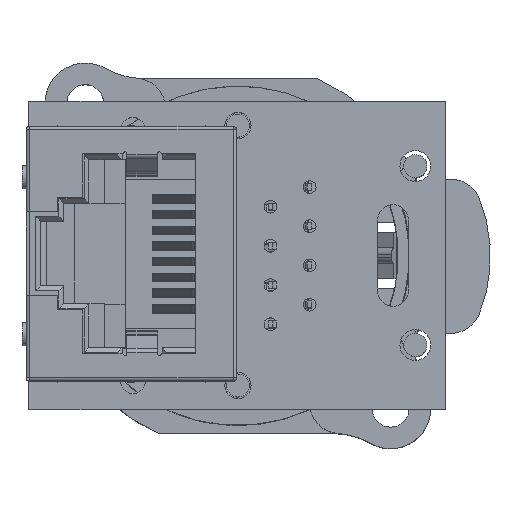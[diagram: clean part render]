
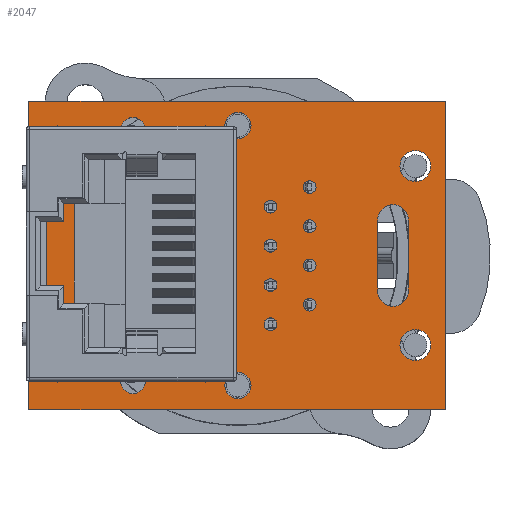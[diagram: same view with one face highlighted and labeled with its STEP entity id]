
A CAD part, top view. The second image highlights one B-rep face of the part: STEP entity #2047.
In plain terms, the highlighted planar face has unit normal (0, 0, 1).
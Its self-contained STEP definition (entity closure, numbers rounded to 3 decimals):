
#1015=FACE_BOUND('',#7059,.T.);
#1016=FACE_BOUND('',#7060,.T.);
#1017=FACE_BOUND('',#7061,.T.);
#1018=FACE_BOUND('',#7062,.T.);
#1019=FACE_BOUND('',#7063,.T.);
#1020=FACE_BOUND('',#7064,.T.);
#1021=FACE_BOUND('',#7065,.T.);
#1022=FACE_BOUND('',#7066,.T.);
#1023=FACE_BOUND('',#7067,.T.);
#1024=FACE_BOUND('',#7068,.T.);
#1025=FACE_BOUND('',#7069,.T.);
#1026=FACE_BOUND('',#7070,.T.);
#1027=FACE_BOUND('',#7071,.T.);
#1028=FACE_BOUND('',#7072,.T.);
#1029=FACE_BOUND('',#7073,.T.);
#1030=FACE_BOUND('',#7074,.T.);
#1202=CIRCLE('',#36660,0.415);
#1203=CIRCLE('',#36661,0.415);
#1204=CIRCLE('',#36662,0.415);
#1205=CIRCLE('',#36663,0.415);
#1206=CIRCLE('',#36664,0.415);
#1207=CIRCLE('',#36665,0.415);
#1208=CIRCLE('',#36666,0.415);
#1209=CIRCLE('',#36667,0.415);
#1210=CIRCLE('',#36668,0.8);
#1211=CIRCLE('',#36669,0.8);
#1212=CIRCLE('',#36670,0.85);
#1213=CIRCLE('',#36671,0.85);
#1214=CIRCLE('',#36672,1.);
#1215=CIRCLE('',#36673,1.);
#1216=CIRCLE('',#36674,1.);
#1217=CIRCLE('',#36675,1.);
#2047=ADVANCED_FACE('',(#1015,#1016,#1017,#1018,#1019,#1020,#1021,#1022,
#1023,#1024,#1025,#1026,#1027,#1028,#1029,#1030),#3898,.T.);
#3898=PLANE('',#36676);
#7059=EDGE_LOOP('',(#9048));
#7060=EDGE_LOOP('',(#9049));
#7061=EDGE_LOOP('',(#9050));
#7062=EDGE_LOOP('',(#9051));
#7063=EDGE_LOOP('',(#9052));
#7064=EDGE_LOOP('',(#9053));
#7065=EDGE_LOOP('',(#9054));
#7066=EDGE_LOOP('',(#9055));
#7067=EDGE_LOOP('',(#9056));
#7068=EDGE_LOOP('',(#9057));
#7069=EDGE_LOOP('',(#9058));
#7070=EDGE_LOOP('',(#9059));
#7071=EDGE_LOOP('',(#9060));
#7072=EDGE_LOOP('',(#9061));
#7073=EDGE_LOOP('',(#9062,#9063,#9064,#9065));
#7074=EDGE_LOOP('',(#9066,#9067,#9068,#9069));
#9048=ORIENTED_EDGE('',*,*,#22994,.T.);
#9049=ORIENTED_EDGE('',*,*,#22995,.F.);
#9050=ORIENTED_EDGE('',*,*,#22996,.F.);
#9051=ORIENTED_EDGE('',*,*,#22997,.F.);
#9052=ORIENTED_EDGE('',*,*,#22998,.F.);
#9053=ORIENTED_EDGE('',*,*,#22999,.F.);
#9054=ORIENTED_EDGE('',*,*,#23000,.F.);
#9055=ORIENTED_EDGE('',*,*,#23001,.F.);
#9056=ORIENTED_EDGE('',*,*,#23002,.F.);
#9057=ORIENTED_EDGE('',*,*,#23003,.F.);
#9058=ORIENTED_EDGE('',*,*,#23004,.F.);
#9059=ORIENTED_EDGE('',*,*,#23005,.F.);
#9060=ORIENTED_EDGE('',*,*,#23006,.F.);
#9061=ORIENTED_EDGE('',*,*,#23007,.F.);
#9062=ORIENTED_EDGE('',*,*,#23008,.F.);
#9063=ORIENTED_EDGE('',*,*,#23009,.F.);
#9064=ORIENTED_EDGE('',*,*,#23010,.F.);
#9065=ORIENTED_EDGE('',*,*,#23011,.F.);
#9066=ORIENTED_EDGE('',*,*,#22984,.T.);
#9067=ORIENTED_EDGE('',*,*,#22988,.T.);
#9068=ORIENTED_EDGE('',*,*,#22991,.T.);
#9069=ORIENTED_EDGE('',*,*,#22993,.T.);
#19532=VERTEX_POINT('',#48873);
#19533=VERTEX_POINT('',#48875);
#19535=VERTEX_POINT('',#48881);
#19537=VERTEX_POINT('',#48887);
#19538=VERTEX_POINT('',#48894);
#19539=VERTEX_POINT('',#48896);
#19540=VERTEX_POINT('',#48898);
#19541=VERTEX_POINT('',#48900);
#19542=VERTEX_POINT('',#48902);
#19543=VERTEX_POINT('',#48904);
#19544=VERTEX_POINT('',#48906);
#19545=VERTEX_POINT('',#48908);
#19546=VERTEX_POINT('',#48910);
#19547=VERTEX_POINT('',#48912);
#19548=VERTEX_POINT('',#48914);
#19549=VERTEX_POINT('',#48916);
#19550=VERTEX_POINT('',#48918);
#19551=VERTEX_POINT('',#48920);
#19552=VERTEX_POINT('',#48922);
#19553=VERTEX_POINT('',#48923);
#19554=VERTEX_POINT('',#48925);
#19555=VERTEX_POINT('',#48927);
#22984=EDGE_CURVE('',#19533,#19532,#28233,.T.);
#22988=EDGE_CURVE('',#19532,#19535,#28237,.T.);
#22991=EDGE_CURVE('',#19535,#19537,#28240,.T.);
#22993=EDGE_CURVE('',#19537,#19533,#28242,.T.);
#22994=EDGE_CURVE('',#19538,#19538,#1202,.T.);
#22995=EDGE_CURVE('',#19539,#19539,#1203,.T.);
#22996=EDGE_CURVE('',#19540,#19540,#1204,.T.);
#22997=EDGE_CURVE('',#19541,#19541,#1205,.T.);
#22998=EDGE_CURVE('',#19542,#19542,#1206,.T.);
#22999=EDGE_CURVE('',#19543,#19543,#1207,.T.);
#23000=EDGE_CURVE('',#19544,#19544,#1208,.T.);
#23001=EDGE_CURVE('',#19545,#19545,#1209,.T.);
#23002=EDGE_CURVE('',#19546,#19546,#1210,.T.);
#23003=EDGE_CURVE('',#19547,#19547,#1211,.T.);
#23004=EDGE_CURVE('',#19548,#19548,#1212,.T.);
#23005=EDGE_CURVE('',#19549,#19549,#1213,.T.);
#23006=EDGE_CURVE('',#19550,#19550,#1214,.T.);
#23007=EDGE_CURVE('',#19551,#19551,#1215,.T.);
#23008=EDGE_CURVE('',#19552,#19553,#28243,.T.);
#23009=EDGE_CURVE('',#19554,#19552,#1216,.T.);
#23010=EDGE_CURVE('',#19555,#19554,#28244,.T.);
#23011=EDGE_CURVE('',#19553,#19555,#1217,.T.);
#28233=LINE('',#48874,#32445);
#28237=LINE('',#48882,#32449);
#28240=LINE('',#48888,#32452);
#28242=LINE('',#48891,#32454);
#28243=LINE('',#48921,#32455);
#28244=LINE('',#48926,#32456);
#32445=VECTOR('',#39326,1.);
#32449=VECTOR('',#39332,1.);
#32452=VECTOR('',#39337,1.);
#32454=VECTOR('',#39341,1.);
#32455=VECTOR('',#39372,1.);
#32456=VECTOR('',#39375,1.);
#36660=AXIS2_PLACEMENT_3D('',#48893,#39344,#39345);
#36661=AXIS2_PLACEMENT_3D('',#48895,#39346,#39347);
#36662=AXIS2_PLACEMENT_3D('',#48897,#39348,#39349);
#36663=AXIS2_PLACEMENT_3D('',#48899,#39350,#39351);
#36664=AXIS2_PLACEMENT_3D('',#48901,#39352,#39353);
#36665=AXIS2_PLACEMENT_3D('',#48903,#39354,#39355);
#36666=AXIS2_PLACEMENT_3D('',#48905,#39356,#39357);
#36667=AXIS2_PLACEMENT_3D('',#48907,#39358,#39359);
#36668=AXIS2_PLACEMENT_3D('',#48909,#39360,#39361);
#36669=AXIS2_PLACEMENT_3D('',#48911,#39362,#39363);
#36670=AXIS2_PLACEMENT_3D('',#48913,#39364,#39365);
#36671=AXIS2_PLACEMENT_3D('',#48915,#39366,#39367);
#36672=AXIS2_PLACEMENT_3D('',#48917,#39368,#39369);
#36673=AXIS2_PLACEMENT_3D('',#48919,#39370,#39371);
#36674=AXIS2_PLACEMENT_3D('',#48924,#39373,#39374);
#36675=AXIS2_PLACEMENT_3D('',#48928,#39376,#39377);
#36676=AXIS2_PLACEMENT_3D('',#48929,#39378,#39379);
#39326=DIRECTION('',(0.,-1.,0.));
#39332=DIRECTION('',(1.,0.,0.));
#39337=DIRECTION('',(0.,1.,0.));
#39341=DIRECTION('',(-1.,0.,0.));
#39344=DIRECTION('',(0.,0.,-1.));
#39345=DIRECTION('',(0.,-1.,0.));
#39346=DIRECTION('',(0.,0.,1.));
#39347=DIRECTION('',(0.,-1.,0.));
#39348=DIRECTION('',(0.,0.,1.));
#39349=DIRECTION('',(0.,-1.,0.));
#39350=DIRECTION('',(0.,0.,1.));
#39351=DIRECTION('',(0.,-1.,0.));
#39352=DIRECTION('',(0.,0.,1.));
#39353=DIRECTION('',(0.,-1.,0.));
#39354=DIRECTION('',(0.,0.,1.));
#39355=DIRECTION('',(0.,-1.,0.));
#39356=DIRECTION('',(0.,0.,1.));
#39357=DIRECTION('',(0.,-1.,0.));
#39358=DIRECTION('',(0.,0.,1.));
#39359=DIRECTION('',(0.,-1.,0.));
#39360=DIRECTION('',(0.,0.,1.));
#39361=DIRECTION('',(0.,1.,0.));
#39362=DIRECTION('',(0.,0.,1.));
#39363=DIRECTION('',(0.,1.,0.));
#39364=DIRECTION('',(0.,0.,1.));
#39365=DIRECTION('',(0.,-1.,0.));
#39366=DIRECTION('',(0.,0.,1.));
#39367=DIRECTION('',(0.,-1.,0.));
#39368=DIRECTION('',(0.,0.,1.));
#39369=DIRECTION('',(0.,-1.,0.));
#39370=DIRECTION('',(0.,0.,1.));
#39371=DIRECTION('',(0.,-1.,0.));
#39372=DIRECTION('',(0.,-1.,0.));
#39373=DIRECTION('',(0.,0.,1.));
#39374=DIRECTION('',(0.,-1.,0.));
#39375=DIRECTION('',(0.,1.,0.));
#39376=DIRECTION('',(0.,0.,1.));
#39377=DIRECTION('',(0.,-1.,0.));
#39378=DIRECTION('',(0.,0.,1.));
#39379=DIRECTION('',(-1.,0.,0.));
#48873=CARTESIAN_POINT('',(-13.5,-10.,1.6));
#48874=CARTESIAN_POINT('',(-13.5,10.,1.6));
#48875=CARTESIAN_POINT('',(-13.5,10.,1.6));
#48881=CARTESIAN_POINT('',(13.5,-10.,1.6));
#48882=CARTESIAN_POINT('',(-13.5,-10.,1.6));
#48887=CARTESIAN_POINT('',(13.5,10.,1.6));
#48888=CARTESIAN_POINT('',(13.5,-10.,1.6));
#48891=CARTESIAN_POINT('',(13.5,10.,1.6));
#48893=CARTESIAN_POINT('',(4.7,4.44,1.6));
#48894=CARTESIAN_POINT('',(4.7,4.025,1.6));
#48895=CARTESIAN_POINT('',(4.7,1.9,1.6));
#48896=CARTESIAN_POINT('',(4.7,1.485,1.6));
#48897=CARTESIAN_POINT('',(4.7,-0.64,1.6));
#48898=CARTESIAN_POINT('',(4.7,-1.055,1.6));
#48899=CARTESIAN_POINT('',(4.7,-3.18,1.6));
#48900=CARTESIAN_POINT('',(4.7,-3.595,1.6));
#48901=CARTESIAN_POINT('',(2.16,3.17,1.6));
#48902=CARTESIAN_POINT('',(2.16,2.755,1.6));
#48903=CARTESIAN_POINT('',(2.16,0.63,1.6));
#48904=CARTESIAN_POINT('',(2.16,0.215,1.6));
#48905=CARTESIAN_POINT('',(2.16,-1.91,1.6));
#48906=CARTESIAN_POINT('',(2.16,-2.325,1.6));
#48907=CARTESIAN_POINT('',(2.16,-4.45,1.6));
#48908=CARTESIAN_POINT('',(2.16,-4.865,1.6));
#48909=CARTESIAN_POINT('',(-6.75,-8.15,1.6));
#48910=CARTESIAN_POINT('',(-6.75,-7.35,1.6));
#48911=CARTESIAN_POINT('',(-6.75,8.15,1.6));
#48912=CARTESIAN_POINT('',(-6.75,8.95,1.6));
#48913=CARTESIAN_POINT('',(0.05,-8.425,1.6));
#48914=CARTESIAN_POINT('',(0.05,-9.275,1.6));
#48915=CARTESIAN_POINT('',(0.05,8.425,1.6));
#48916=CARTESIAN_POINT('',(0.05,7.575,1.6));
#48917=CARTESIAN_POINT('',(11.55,-5.8,1.6));
#48918=CARTESIAN_POINT('',(11.55,-6.8,1.6));
#48919=CARTESIAN_POINT('',(11.55,5.8,1.6));
#48920=CARTESIAN_POINT('',(11.55,4.8,1.6));
#48921=CARTESIAN_POINT('',(9.1,2.3,1.6));
#48922=CARTESIAN_POINT('',(9.1,2.3,1.6));
#48923=CARTESIAN_POINT('',(9.1,-2.3,1.6));
#48924=CARTESIAN_POINT('',(10.1,2.3,1.6));
#48925=CARTESIAN_POINT('',(11.1,2.3,1.6));
#48926=CARTESIAN_POINT('',(11.1,-2.3,1.6));
#48927=CARTESIAN_POINT('',(11.1,-2.3,1.6));
#48928=CARTESIAN_POINT('',(10.1,-2.3,1.6));
#48929=CARTESIAN_POINT('',(0.,0.,1.6));
